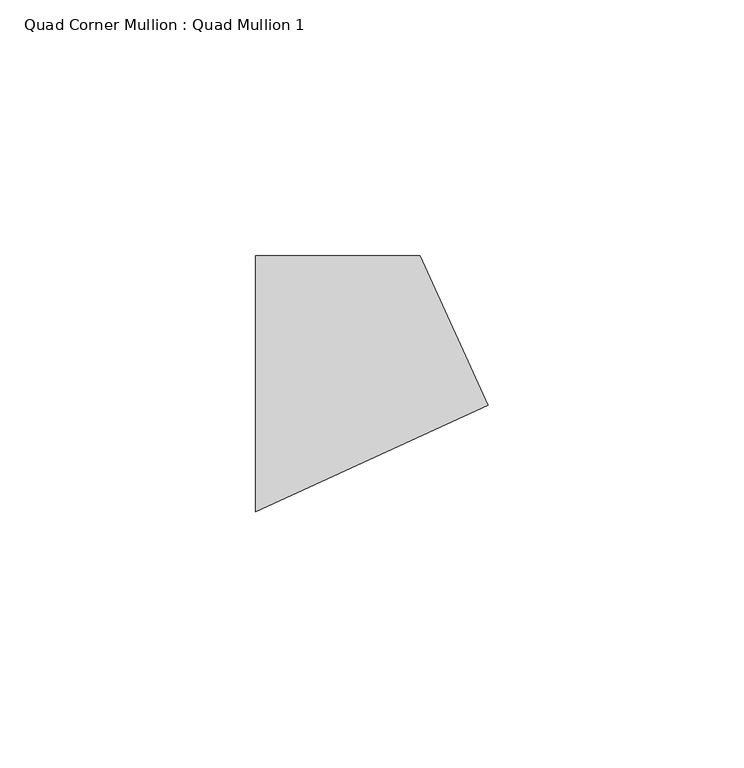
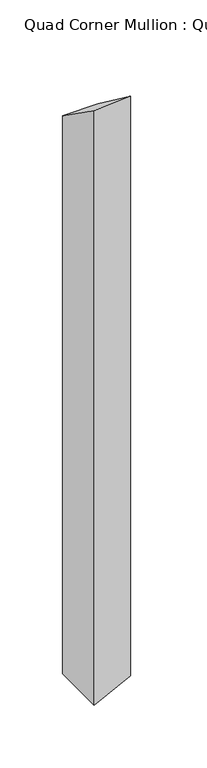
"""IFC4 building model written with IfcOpenShell, lengths in millimetres: member geometry, Quad Corner Mullion : Quad Mullion 1."""

from ifc_helpers import new_model, si_unit, origin, place, context, project, spatial, faceted_brep, source, transform, mapped, element, save


def quad_corner_mullion_quad_mullion_1_3a86433a(model_context):
    return source(origin(), model_context, "Body", "Brep", [
        faceted_brep([(29.4125559, -4.1926582, -558.5043744), (-16.0523154, -25.0, -558.5043744), (-16.0523154, 25.0, -558.5043744), (16.0523154, 25.0, -558.5043744), (16.0523154, 25.0, -17.5051885), (29.4125559, -4.1926582, 2.9357309), (-16.0523154, 25.0, -17.5051885), (-16.0523154, -25.0, 17.5051885)], [[[0, 1, 2, 3]], [[4, 5, 0, 3]], [[6, 4, 3, 2]], [[7, 6, 2, 1]], [[5, 7, 1, 0]], [[5, 4, 6, 7]]]),
    ])


if __name__ == "__main__":
    model = new_model("IFC4")
    model_context = context("Model", 3, world=origin())
    ifc_project = project(units=[si_unit("LENGTHUNIT", "METRE", prefix="MILLI")], contexts=[model_context])
    site = spatial("IfcSite", under=ifc_project)
    building = spatial("IfcBuilding", under=site)
    placement = place(None, origin())
    quad_corner_mullion_quad_mullion_1_shape = quad_corner_mullion_quad_mullion_1_3a86433a(model_context)
    element("IfcMember", 1, ObjectType="Quad Corner Mullion : Quad Mullion 1", at=placement, inside=building, context=model_context, shape_type="MappedRepresentation", body=[
        mapped(quad_corner_mullion_quad_mullion_1_shape, transform((0.0, 0.0, 0.0), x_axis=(1.0, 0.0, 0.0), y_axis=(0.0, 1.0, 0.0), z_axis=(0.0, 0.0, 1.0))),
    ])
    save(model, "model.ifc")
